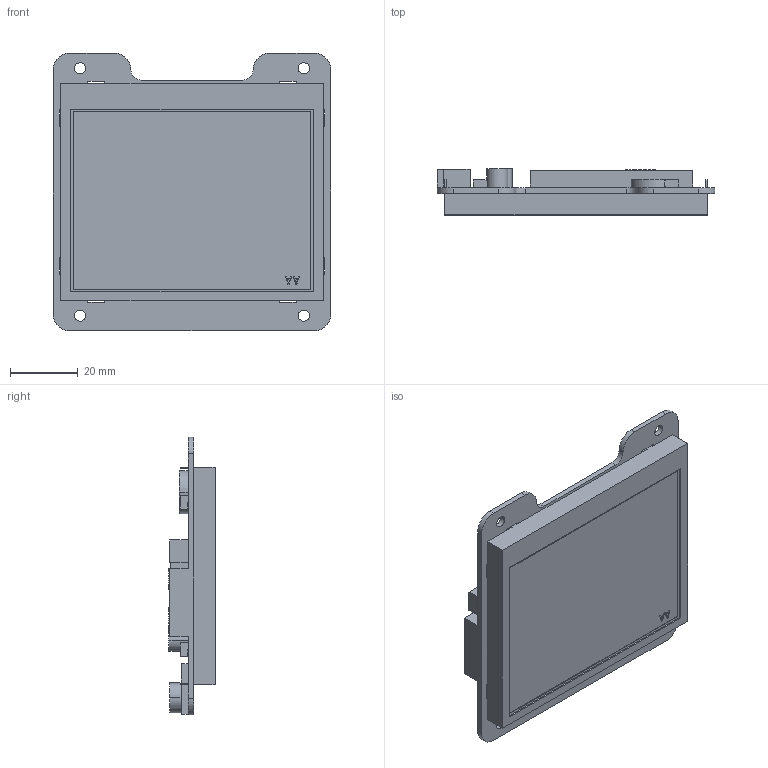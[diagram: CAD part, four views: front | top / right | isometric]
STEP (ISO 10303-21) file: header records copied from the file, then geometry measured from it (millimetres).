
FILE_DESCRIPTION((''),'2;1');
FILE_NAME('DMG64480K035-03WTC_ASM','2022-02-22T',('Administrator'),(''),'PRO/ENGINEER BY PARAMETRIC TECHNOLOGY CORPORATION, 2014320','PRO/ENGINEER BY PARAMETRIC TECHNOLOGY CORPORATION, 2014320','');
FILE_SCHEMA(('CONFIG_CONTROL_DESIGN','SHAPE_APPEARANCE_LAYERS_GROUPS'));
Length unit declared in the file: millimetre
Products named in the file (4): TK035---; LCM; PCB; DMG64480K035-03WTC_ASM
Assembly tree (3 placements, depth 2):
  DMG64480K035-03WTC_ASM
    TK035---
    LCM
    PCB
Bounding box: 82 x 13.6 x 82 mm (x, y, z)
Volume: 36575.5 mm3; surface area: 32019.1 mm2
Topology: 3 solids, 3 shells, 213 faces, 582 edges, 388 vertices
Faces by surface type: plane 163, cylinder 50
Entity records: 7672 total; most frequent: CARTESIAN_POINT 1190, ORIENTED_EDGE 1164, DIRECTION 1122, EDGE_CURVE 582, VECTOR 482, LINE 482, VERTEX_POINT 388, AXIS2_PLACEMENT_3D 320
